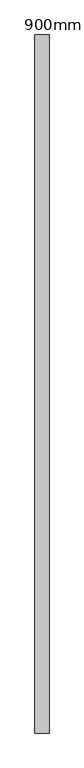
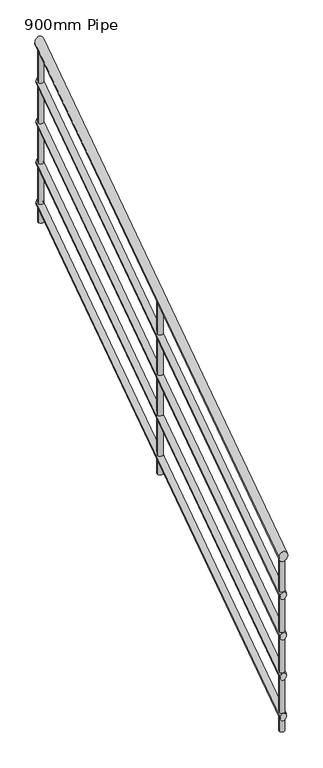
"""IFC4 building model written with IfcOpenShell, lengths in millimetres: railing geometry, 900mm Pipe."""

import ifcopenshell
import ifcopenshell.guid

model = None  # the IFC model being written
_history = None  # IfcOwnerHistory: only IFC2X3 demands one
_inside = {}  # id of a spatial element -> (the spatial element, [elements in it])
_under = {}  # id of a project, library or spatial element -> (it, [spatial elements below it])
_declared = {}  # id of a project -> (the project, [libraries it declares])
_typed = {}  # id of a type object -> (the type object, [elements of that type])
_made_of = {}  # id of a material, layer set ... -> (it, [elements and type objects made of it])


def new_model(schema):
    """Start an empty IFC model of exactly this schema.

    Asked for "IFC4X3", IfcOpenShell would pick the latest addendum, in which some entities
    have other attributes; the version numbers below select the first issue.
    IFC2X3 requires an IfcOwnerHistory on every rooted entity: one is made here for all.
    """
    global model, _history
    if schema == "IFC4X3":
        model = ifcopenshell.file(schema_version=(4, 3, 0, 0))
    else:
        model = ifcopenshell.file(schema=schema)
    _inside.clear()
    _under.clear()
    _declared.clear()
    _typed.clear()
    _made_of.clear()
    _history = None
    if model.schema == "IFC2X3":
        org = make("IfcOrganization", Name="unknown")
        user = make(
            "IfcPersonAndOrganization",
            ThePerson=make("IfcPerson", FamilyName="unknown"),
            TheOrganization=org,
        )
        app = make(
            "IfcApplication",
            ApplicationDeveloper=org,
            Version="unknown",
            ApplicationFullName="unknown",
            ApplicationIdentifier="unknown",
        )
        _history = make(
            "IfcOwnerHistory",
            OwningUser=user,
            OwningApplication=app,
            ChangeAction="ADDED",
            CreationDate=0,
        )
    return model


def make(cls, **values):
    """One entity of the class cls with the attributes given. An attribute that is None is left unset."""
    return model.create_entity(
        cls, **{name: value for name, value in values.items() if value is not None}
    )


def rooted(cls, **values):
    """An entity with a GlobalId (a new one), such as an element, a storey or a relation."""
    return make(cls, GlobalId=ifcopenshell.guid.new(), OwnerHistory=_history, **values)


def si_unit(unit_type, name, prefix=None):
    """IfcSIUnit, for example si_unit("LENGTHUNIT", "METRE", prefix="MILLI")."""
    return make("IfcSIUnit", UnitType=unit_type, Prefix=prefix, Name=name)


def assignment(units):
    """IfcUnitAssignment: the units of a project."""
    return None if units is None else make("IfcUnitAssignment", Units=units)


def point(xyz):
    """IfcCartesianPoint."""
    return None if xyz is None else make("IfcCartesianPoint", Coordinates=xyz)


def direction(xyz):
    """IfcDirection."""
    return None if xyz is None else make("IfcDirection", DirectionRatios=xyz)


def frame(location, z_axis=None, x_axis=None):
    """IfcAxis2Placement3D, a coordinate frame: its origin and axes. An axis left out is left unset."""
    return make(
        "IfcAxis2Placement3D",
        Location=point(location),
        Axis=direction(z_axis),
        RefDirection=direction(x_axis),
    )


def origin():
    """The frame at (0, 0, 0) with its axes left unset."""
    return frame((0.0, 0.0, 0.0))


def place(relative_to, where):
    """IfcLocalPlacement: puts the frame where relative to a parent placement (None: the world)."""
    return make(
        "IfcLocalPlacement", PlacementRelTo=relative_to, RelativePlacement=where
    )


def context(
    kind, dimensions, precision=None, world=None, true_north=None, identifier=None
):
    """IfcGeometricRepresentationContext, for example the 3D "Model" context."""
    return make(
        "IfcGeometricRepresentationContext",
        ContextIdentifier=identifier,
        ContextType=kind,
        CoordinateSpaceDimension=dimensions,
        Precision=precision,
        WorldCoordinateSystem=world,
        TrueNorth=true_north,
    )


def project(units=None, contexts=None):
    """IfcProject with its units and contexts."""
    return rooted(
        "IfcProject",
        Name="project",
        RepresentationContexts=contexts,
        UnitsInContext=assignment(units),
    )


def spatial(cls, under=None, at=None, **own):
    """A site, building, storey or space (cls), placed at a placement, below another one or the project."""
    s = rooted(cls, ObjectPlacement=at, **own)
    if under is not None:
        _under.setdefault(under.id(), (under, []))[1].append(s)
    return s


def circle_curve(where, radius):
    """IfcCircle in the frame where."""
    return make("IfcCircle", Position=where, Radius=radius)


def ellipse_curve(where, semi_axis1, semi_axis2):
    """IfcEllipse in the frame where."""
    return make(
        "IfcEllipse", Position=where, SemiAxis1=semi_axis1, SemiAxis2=semi_axis2
    )


def shape(context_of_items, identifier, shape_type, items):
    """IfcShapeRepresentation: the items that make up one representation, for example the "Body"."""
    return make(
        "IfcShapeRepresentation",
        ContextOfItems=context_of_items,
        RepresentationIdentifier=identifier,
        RepresentationType=shape_type,
        Items=items,
    )


def source(mapping_origin, context_of_items, identifier, shape_type, items):
    """IfcRepresentationMap: a shape defined once, which mapped items show again and again."""
    return make(
        "IfcRepresentationMap",
        MappingOrigin=mapping_origin,
        MappedRepresentation=shape(context_of_items, identifier, shape_type, items),
    )


def transform(
    local_origin,
    x_axis=None,
    y_axis=None,
    z_axis=None,
    scale=None,
    scale2=None,
    scale3=None,
    uniform=True,
):
    """IfcCartesianTransformationOperator3D, or its non-uniform kind. x_axis, y_axis, z_axis: its Axis1, 2, 3."""
    if uniform:
        return make(
            "IfcCartesianTransformationOperator3D",
            Axis1=direction(x_axis),
            Axis2=direction(y_axis),
            LocalOrigin=point(local_origin),
            Scale=scale,
            Axis3=direction(z_axis),
        )
    return make(
        "IfcCartesianTransformationOperator3DnonUniform",
        Axis1=direction(x_axis),
        Axis2=direction(y_axis),
        LocalOrigin=point(local_origin),
        Scale=scale,
        Axis3=direction(z_axis),
        Scale2=scale2,
        Scale3=scale3,
    )


def mapped(mapping_source, mapping_target):
    """IfcMappedItem: shows the shape of a source again, moved by a transform."""
    return make(
        "IfcMappedItem", MappingSource=mapping_source, MappingTarget=mapping_target
    )


def made_of(thing, what):
    """Note that an element or type object is made of a material, layer set ...; save() writes the relation."""
    if what is not None:
        _made_of.setdefault(what.id(), (what, []))[1].append(thing)
    return thing


def element(
    cls,
    number,
    at=None,
    inside=None,
    cuts=None,
    type_object=None,
    material=None,
    context=None,
    identifier="Body",
    shape_type=None,
    held_by="IfcProductDefinitionShape",
    body=None,
    shapes=None,
    **own,
):
    """One element of the class cls, such as IfcWall. Its Tag is "e" and its number.

    at: its placement. inside: the storey or other place that contains it. cuts: it is an
    opening in that element (IfcRelVoidsElement). A single representation is given by context,
    identifier, shape_type and body (its items); several are given by shapes. held_by: the class
    of the entity that holds the representations. save() writes the other relations.
    """
    e = rooted(cls, Tag="e%d" % number, ObjectPlacement=at, **own)
    if body is not None:
        shapes = [shape(context, identifier, shape_type, body)]
    if shapes is not None:
        e.Representation = make(held_by, Representations=shapes)
    if inside is not None:
        _inside.setdefault(inside.id(), (inside, []))[1].append(e)
    if cuts is not None:
        rooted(
            "IfcRelVoidsElement", RelatingBuildingElement=cuts, RelatedOpeningElement=e
        )
    if type_object is not None:
        _typed.setdefault(type_object.id(), (type_object, []))[1].append(e)
    return made_of(e, material)


def aggregate(whole, parts):
    """IfcRelAggregates: a whole, such as a stair, and the parts it consists of."""
    return rooted("IfcRelAggregates", RelatingObject=whole, RelatedObjects=parts)


def save(model, path):
    """Write the relations noted so far, then the file.

    IfcRelAggregates (storeys below a building ...), IfcRelContainedInSpatialStructure (elements
    in a storey), IfcRelDefinesByType, IfcRelAssociatesMaterial and IfcRelDeclares: one each for
    every whole, place, type object, material and project.
    """
    for whole, parts in _under.values():
        aggregate(whole, parts)
    for where, things in _inside.values():
        rooted(
            "IfcRelContainedInSpatialStructure",
            RelatedElements=things,
            RelatingStructure=where,
        )
    for kind, things in _typed.values():
        rooted("IfcRelDefinesByType", RelatedObjects=things, RelatingType=kind)
    for what, things in _made_of.values():
        rooted("IfcRelAssociatesMaterial", RelatedObjects=things, RelatingMaterial=what)
    for by, libraries in _declared.values():
        rooted("IfcRelDeclares", RelatingContext=by, RelatedDefinitions=libraries)
    model.write(path)


def plane_surface(at):
    """IfcPlane: the flat surface through the origin of the frame at, square to its z axis."""
    return make("IfcPlane", Position=at)


def cylinder_surface(at, radius):
    """IfcCylindricalSurface: all points at the distance radius from the z axis of the frame at."""
    return make("IfcCylindricalSurface", Position=at, Radius=radius)


def advanced_brep(points, edges, surfaces, faces):
    """IfcAdvancedBrep: a solid bounded by faces that lie on surfaces and meet in shared edges.

    An edge is (start, end): straight between two places in points (the first is 0);
    or (start, end, curve); or (start, end, curve, False) where it runs against its curve.
    A face is (place in surfaces, loops), or (place, loops, False) where it looks against
    its surface's normal. A loop lists edges by number (the first is 1), with a minus sign
    where the edge is run from its end to its start. The first loop is the outer one.
    """
    corners = [point(p) for p in points]
    vertices = [make("IfcVertexPoint", VertexGeometry=c) for c in corners]
    made = []
    for start, end, *more in edges:
        made.append(
            make(
                "IfcEdgeCurve",
                EdgeStart=vertices[start],
                EdgeEnd=vertices[end],
                EdgeGeometry=more[0] if more else make("IfcPolyline", Points=[corners[start], corners[end]]),
                SameSense=more[1] if len(more) > 1 else True,
            )
        )
    hull = []
    for where, loops, *sense in faces:
        bounds = []
        for j, loop in enumerate(loops):
            ring = [make("IfcOrientedEdge", EdgeElement=made[abs(k) - 1], Orientation=k > 0) for k in loop]
            bounds.append(
                make(
                    "IfcFaceOuterBound" if j == 0 else "IfcFaceBound",
                    Bound=make("IfcEdgeLoop", EdgeList=ring),
                    Orientation=True,
                )
            )
        hull.append(make("IfcAdvancedFace", Bounds=bounds, FaceSurface=surfaces[where], SameSense=sense[0] if sense else True))
    return make("IfcAdvancedBrep", Outer=make("IfcClosedShell", CfsFaces=hull))


def railing_900mm_pipe_83fa4486(model_context):
    return source(origin(), model_context, "Body", "AdvancedBrep", [
        advanced_brep(
        [(-6378.3266822, -8881.7671527, -474.2064126), (-6338.3266822, -8881.7671527, -474.2064126), (-6378.3266822, -6901.7671527, 875.7935874), (-6338.3266822, -6901.7671527, 875.7935874)],
        [
            (0, 1, ellipse_curve(frame((-6358.3266822, -8881.7671527, -474.2064126), z_axis=(0.0, -1.0, 0.0), x_axis=(0.0, 0.0, -1.0)), 24.2064126, 20.0)),
            (1, 0, ellipse_curve(frame((-6358.3266822, -8881.7671527, -474.2064126), z_axis=(0.0, -1.0, 0.0), x_axis=(0.0, 0.0, -1.0)), 24.2064126, 20.0)),
            (2, 3, ellipse_curve(frame((-6358.3266822, -6901.7671527, 875.7935874), z_axis=(0.0, 1.0, 0.0), x_axis=(0.0, 0.0, -1.0)), 24.2064126, 20.0)),
            (3, 2, ellipse_curve(frame((-6358.3266822, -6901.7671527, 875.7935874), z_axis=(0.0, 1.0, 0.0), x_axis=(0.0, 0.0, -1.0)), 24.2064126, 20.0)),
            (0, 2),
            (3, 1),
        ],
        [
            plane_surface(frame((-6358.3266822, -8881.7671527, -450.0), z_axis=(0.0, -1.0, 0.0), x_axis=(0.0, 0.0, 1.0))),
            plane_surface(frame((-6358.3266822, -6901.7671527, 900.0), z_axis=(0.0, 1.0, 0.0), x_axis=(0.0, 0.0, 1.0))),
            cylinder_surface(frame((-6358.3266822, -8870.5004163, -466.5245469), z_axis=(0.0, -0.8262273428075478, -0.5633368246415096), x_axis=(1.0, 0.0, 0.0)), 20.0),
        ],
        [
            (0, [[1, 2]]),
            (1, [[3, 4]]),
            (2, [[-1, 5, -4, 6]]),
            (2, [[-2, -6, -3, -5]]),
        ],
    ),
        advanced_brep(
        [(-6373.3266822, -8881.7671527, -668.1548095), (-6343.3266822, -8881.7671527, -668.1548095), (-6373.3266822, -6901.7671527, 681.8451905), (-6343.3266822, -6901.7671527, 681.8451905)],
        [
            (0, 1, ellipse_curve(frame((-6358.3266822, -8881.7671527, -668.1548095), z_axis=(0.0, -1.0, 0.0), x_axis=(0.0, 0.0, -1.0)), 18.1548095, 15.0)),
            (1, 0, ellipse_curve(frame((-6358.3266822, -8881.7671527, -668.1548095), z_axis=(0.0, -1.0, 0.0), x_axis=(0.0, 0.0, -1.0)), 18.1548095, 15.0)),
            (2, 3, ellipse_curve(frame((-6358.3266822, -6901.7671527, 681.8451905), z_axis=(0.0, 1.0, 0.0), x_axis=(0.0, 0.0, -1.0)), 18.1548095, 15.0)),
            (3, 2, ellipse_curve(frame((-6358.3266822, -6901.7671527, 681.8451905), z_axis=(0.0, 1.0, 0.0), x_axis=(0.0, 0.0, -1.0)), 18.1548095, 15.0)),
            (0, 2),
            (3, 1),
        ],
        [
            plane_surface(frame((-6358.3266822, -8881.7671527, -650.0), z_axis=(0.0, -1.0, 0.0), x_axis=(0.0, 0.0, 1.0))),
            plane_surface(frame((-6358.3266822, -6901.7671527, 700.0), z_axis=(0.0, 1.0, 0.0), x_axis=(0.0, 0.0, 1.0))),
            cylinder_surface(frame((-6358.3266822, -8873.3171004, -662.3934101), z_axis=(0.0, -0.8262273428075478, -0.5633368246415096), x_axis=(1.0, 0.0, 0.0)), 15.0),
        ],
        [
            (0, [[1, 2]]),
            (1, [[3, 4]]),
            (2, [[-1, 5, -4, 6]]),
            (2, [[-2, -6, -3, -5]]),
        ],
    ),
        advanced_brep(
        [(-6373.3266822, -8881.7671527, -868.1548095), (-6343.3266822, -8881.7671527, -868.1548095), (-6373.3266822, -6901.7671527, 481.8451905), (-6343.3266822, -6901.7671527, 481.8451905)],
        [
            (0, 1, ellipse_curve(frame((-6358.3266822, -8881.7671527, -868.1548095), z_axis=(0.0, -1.0, 0.0), x_axis=(0.0, 0.0, -1.0)), 18.1548095, 15.0)),
            (1, 0, ellipse_curve(frame((-6358.3266822, -8881.7671527, -868.1548095), z_axis=(0.0, -1.0, 0.0), x_axis=(0.0, 0.0, -1.0)), 18.1548095, 15.0)),
            (2, 3, ellipse_curve(frame((-6358.3266822, -6901.7671527, 481.8451905), z_axis=(0.0, 1.0, 0.0), x_axis=(0.0, 0.0, -1.0)), 18.1548095, 15.0)),
            (3, 2, ellipse_curve(frame((-6358.3266822, -6901.7671527, 481.8451905), z_axis=(0.0, 1.0, 0.0), x_axis=(0.0, 0.0, -1.0)), 18.1548095, 15.0)),
            (0, 2),
            (3, 1),
        ],
        [
            plane_surface(frame((-6358.3266822, -8881.7671527, -850.0), z_axis=(0.0, -1.0, 0.0), x_axis=(0.0, 0.0, 1.0))),
            plane_surface(frame((-6358.3266822, -6901.7671527, 500.0), z_axis=(0.0, 1.0, 0.0), x_axis=(0.0, 0.0, 1.0))),
            cylinder_surface(frame((-6358.3266822, -8873.3171004, -862.3934101), z_axis=(0.0, -0.8262273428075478, -0.5633368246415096), x_axis=(1.0, 0.0, 0.0)), 15.0),
        ],
        [
            (0, [[1, 2]]),
            (1, [[3, 4]]),
            (2, [[-1, 5, -4, 6]]),
            (2, [[-2, -6, -3, -5]]),
        ],
    ),
        advanced_brep(
        [(-6373.3266822, -8881.7671527, -1068.1548095), (-6343.3266822, -8881.7671527, -1068.1548095), (-6373.3266822, -6901.7671527, 281.8451905), (-6343.3266822, -6901.7671527, 281.8451905)],
        [
            (0, 1, ellipse_curve(frame((-6358.3266822, -8881.7671527, -1068.1548095), z_axis=(0.0, -1.0, 0.0), x_axis=(0.0, 0.0, -1.0)), 18.1548095, 15.0)),
            (1, 0, ellipse_curve(frame((-6358.3266822, -8881.7671527, -1068.1548095), z_axis=(0.0, -1.0, 0.0), x_axis=(0.0, 0.0, -1.0)), 18.1548095, 15.0)),
            (2, 3, ellipse_curve(frame((-6358.3266822, -6901.7671527, 281.8451905), z_axis=(0.0, 1.0, 0.0), x_axis=(0.0, 0.0, -1.0)), 18.1548095, 15.0)),
            (3, 2, ellipse_curve(frame((-6358.3266822, -6901.7671527, 281.8451905), z_axis=(0.0, 1.0, 0.0), x_axis=(0.0, 0.0, -1.0)), 18.1548095, 15.0)),
            (0, 2),
            (3, 1),
        ],
        [
            plane_surface(frame((-6358.3266822, -8881.7671527, -1050.0), z_axis=(0.0, -1.0, 0.0), x_axis=(0.0, 0.0, 1.0))),
            plane_surface(frame((-6358.3266822, -6901.7671527, 300.0), z_axis=(0.0, 1.0, 0.0), x_axis=(0.0, 0.0, 1.0))),
            cylinder_surface(frame((-6358.3266822, -8873.3171004, -1062.3934101), z_axis=(0.0, -0.8262273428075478, -0.5633368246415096), x_axis=(1.0, 0.0, 0.0)), 15.0),
        ],
        [
            (0, [[1, 2]]),
            (1, [[3, 4]]),
            (2, [[-1, 5, -4, 6]]),
            (2, [[-2, -6, -3, -5]]),
        ],
    ),
        advanced_brep(
        [(-6373.3266822, -8881.7671527, -1268.1548095), (-6343.3266822, -8881.7671527, -1268.1548095), (-6373.3266822, -6901.7671527, 81.8451905), (-6343.3266822, -6901.7671527, 81.8451905)],
        [
            (0, 1, ellipse_curve(frame((-6358.3266822, -8881.7671527, -1268.1548095), z_axis=(0.0, -1.0, 0.0), x_axis=(0.0, 0.0, -1.0)), 18.1548095, 15.0)),
            (1, 0, ellipse_curve(frame((-6358.3266822, -8881.7671527, -1268.1548095), z_axis=(0.0, -1.0, 0.0), x_axis=(0.0, 0.0, -1.0)), 18.1548095, 15.0)),
            (2, 3, ellipse_curve(frame((-6358.3266822, -6901.7671527, 81.8451905), z_axis=(0.0, 1.0, 0.0), x_axis=(0.0, 0.0, -1.0)), 18.1548095, 15.0)),
            (3, 2, ellipse_curve(frame((-6358.3266822, -6901.7671527, 81.8451905), z_axis=(0.0, 1.0, 0.0), x_axis=(0.0, 0.0, -1.0)), 18.1548095, 15.0)),
            (0, 2),
            (3, 1),
        ],
        [
            plane_surface(frame((-6358.3266822, -8881.7671527, -1250.0), z_axis=(0.0, -1.0, 0.0), x_axis=(0.0, 0.0, 1.0))),
            plane_surface(frame((-6358.3266822, -6901.7671527, 100.0), z_axis=(0.0, 1.0, 0.0), x_axis=(0.0, 0.0, 1.0))),
            cylinder_surface(frame((-6358.3266822, -8873.3171004, -1262.3934101), z_axis=(0.0, -0.8262273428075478, -0.5633368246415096), x_axis=(1.0, 0.0, 0.0)), 15.0),
        ],
        [
            (0, [[1, 2]]),
            (1, [[3, 4]]),
            (2, [[-1, 5, -4, 6]]),
            (2, [[-2, -6, -3, -5]]),
        ],
    ),
        advanced_brep(
        [(-6345.8266822, -7881.7671527, 183.4053565), (-6345.8266822, -7881.7671527, -668.1818182), (-6370.8266822, -7881.7671527, -668.1818182), (-6370.8266822, -7881.7671527, 183.4053565)],
        [
            (0, 1),
            (1, 2, circle_curve(frame((-6358.3266822, -7881.7671527, -668.1818182), z_axis=(0.0, 0.0, 1.0), x_axis=(-1.0, 0.0, 0.0)), 12.5)),
            (2, 3),
            (3, 0, ellipse_curve(frame((-6358.3266822, -7881.7671527, 183.4053565), z_axis=(0.0, 0.5633368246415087, -0.8262273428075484), x_axis=(0.0, 0.8262273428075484, 0.5633368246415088)), 15.1290079, 12.5)),
            (0, 3, ellipse_curve(frame((-6358.3266822, -7881.7671527, 183.4053565), z_axis=(0.0, 0.5633368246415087, -0.8262273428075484), x_axis=(0.0, 0.8262273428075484, 0.5633368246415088)), 15.1290079, 12.5)),
            (2, 1, circle_curve(frame((-6358.3266822, -7881.7671527, -668.1818182), z_axis=(0.0, 0.0, 1.0), x_axis=(-1.0, 0.0, 0.0)), 12.5)),
        ],
        [
            cylinder_surface(frame((-6358.3266822, -7881.7671527, -768.1818182), z_axis=(0.0, 0.0, 1.0), x_axis=(-1.0, 0.0, 0.0)), 12.5),
            plane_surface(frame((-6383.3266822, -7856.7671527, 200.4508111), z_axis=(0.0, -0.5633368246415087, 0.8262273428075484), x_axis=(1.0, 0.0, 0.0))),
            plane_surface(frame((-6383.3266822, -7906.7671527, -668.1818182), z_axis=(0.0, 0.0, -1.0), x_axis=(1.0, 0.0, 0.0))),
        ],
        [
            (0, [[1, 2, 3, 4]]),
            (0, [[-1, 5, -3, 6]]),
            (1, [[-4, -5]]),
            (2, [[-2, -6]]),
        ],
    ),
        advanced_brep(
        [(-6345.8266822, -6914.2671527, 843.0644474), (-6345.8266822, -6914.2671527, -8.5227273), (-6370.8266822, -6914.2671527, -8.5227273), (-6370.8266822, -6914.2671527, 843.0644474)],
        [
            (0, 1),
            (1, 2, circle_curve(frame((-6358.3266822, -6914.2671527, -8.5227273), z_axis=(0.0, 0.0, 1.0), x_axis=(-1.0, 0.0, 0.0)), 12.5)),
            (2, 3),
            (3, 0, ellipse_curve(frame((-6358.3266822, -6914.2671527, 843.0644474), z_axis=(0.0, 0.5633368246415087, -0.8262273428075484), x_axis=(0.0, 0.8262273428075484, 0.5633368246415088)), 15.1290079, 12.5)),
            (0, 3, ellipse_curve(frame((-6358.3266822, -6914.2671527, 843.0644474), z_axis=(0.0, 0.5633368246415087, -0.8262273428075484), x_axis=(0.0, 0.8262273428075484, 0.5633368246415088)), 15.1290079, 12.5)),
            (2, 1, circle_curve(frame((-6358.3266822, -6914.2671527, -8.5227273), z_axis=(0.0, 0.0, 1.0), x_axis=(-1.0, 0.0, 0.0)), 12.5)),
        ],
        [
            cylinder_surface(frame((-6358.3266822, -6914.2671527, -108.5227273), z_axis=(0.0, 0.0, 1.0), x_axis=(-1.0, 0.0, 0.0)), 12.5),
            plane_surface(frame((-6383.3266822, -6889.2671527, 860.109902), z_axis=(0.0, -0.5633368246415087, 0.8262273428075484), x_axis=(1.0, 0.0, 0.0))),
            plane_surface(frame((-6383.3266822, -6939.2671527, -8.5227273), z_axis=(0.0, 0.0, -1.0), x_axis=(1.0, 0.0, 0.0))),
        ],
        [
            (0, [[1, 2, 3, 4]]),
            (0, [[-1, 5, -3, 6]]),
            (1, [[-4, -5]]),
            (2, [[-2, -6]]),
        ],
    ),
        advanced_brep(
        [(-6345.8266822, -8869.2671527, -489.890098), (-6345.8266822, -8869.2671527, -1341.4772727), (-6370.8266822, -8869.2671527, -1341.4772727), (-6370.8266822, -8869.2671527, -489.890098)],
        [
            (0, 1),
            (1, 2, circle_curve(frame((-6358.3266822, -8869.2671527, -1341.4772727), z_axis=(0.0, 0.0, 1.0), x_axis=(-1.0, 0.0, 0.0)), 12.5)),
            (2, 3),
            (3, 0, ellipse_curve(frame((-6358.3266822, -8869.2671527, -489.890098), z_axis=(0.0, 0.5633368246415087, -0.8262273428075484), x_axis=(0.0, 0.8262273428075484, 0.5633368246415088)), 15.1290079, 12.5)),
            (0, 3, ellipse_curve(frame((-6358.3266822, -8869.2671527, -489.890098), z_axis=(0.0, 0.5633368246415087, -0.8262273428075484), x_axis=(0.0, 0.8262273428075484, 0.5633368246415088)), 15.1290079, 12.5)),
            (2, 1, circle_curve(frame((-6358.3266822, -8869.2671527, -1341.4772727), z_axis=(0.0, 0.0, 1.0), x_axis=(-1.0, 0.0, 0.0)), 12.5)),
        ],
        [
            cylinder_surface(frame((-6358.3266822, -8869.2671527, -1441.4772727), z_axis=(0.0, 0.0, 1.0), x_axis=(-1.0, 0.0, 0.0)), 12.5),
            plane_surface(frame((-6383.3266822, -8844.2671527, -472.8446435), z_axis=(0.0, -0.5633368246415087, 0.8262273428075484), x_axis=(1.0, 0.0, 0.0))),
            plane_surface(frame((-6383.3266822, -8894.2671527, -1341.4772727), z_axis=(0.0, 0.0, -1.0), x_axis=(1.0, 0.0, 0.0))),
        ],
        [
            (0, [[1, 2, 3, 4]]),
            (0, [[-1, 5, -3, 6]]),
            (1, [[-4, -5]]),
            (2, [[-2, -6]]),
        ],
    ),
    ])


if __name__ == "__main__":
    model = new_model("IFC4")
    model_context = context("Model", 3, world=origin())
    ifc_project = project(units=[si_unit("LENGTHUNIT", "METRE", prefix="MILLI")], contexts=[model_context])
    site = spatial("IfcSite", under=ifc_project)
    building = spatial("IfcBuilding", under=site)
    placement = place(None, origin())
    railing_900mm_pipe_shape = railing_900mm_pipe_83fa4486(model_context)
    element("IfcRailing", 1, ObjectType="900mm Pipe", at=placement, inside=building, context=model_context, shape_type="MappedRepresentation", body=[
        mapped(railing_900mm_pipe_shape, transform((0.0, 0.0, 0.0), x_axis=(1.0, 0.0, 0.0), y_axis=(0.0, 1.0, 0.0), z_axis=(0.0, 0.0, 1.0))),
    ])
    save(model, "model.ifc")
